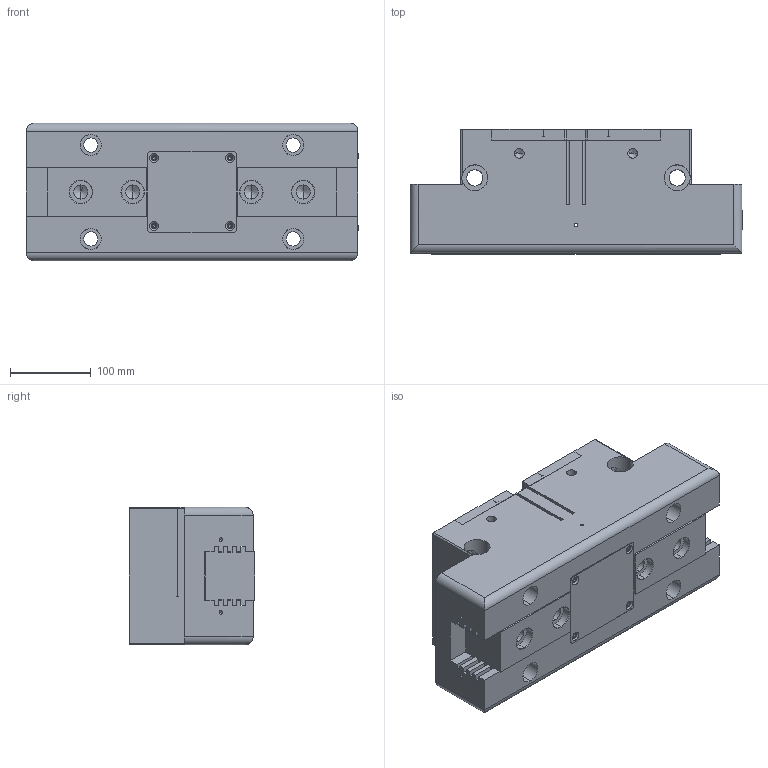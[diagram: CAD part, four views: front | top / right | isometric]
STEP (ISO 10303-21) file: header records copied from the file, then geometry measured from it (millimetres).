
FILE_DESCRIPTION (( 'STEP AP214' ), '1' );
FILE_NAME ('TWN-380A-2.STEP', '2019-12-10T08:37:22', ( '' ), ( '' ), 'SwSTEP 2.0', 'SolidWorks 2016', '' );
FILE_SCHEMA (( 'AUTOMOTIVE_DESIGN' ));
Length unit declared in the file: millimetre
Products named in the file (5): TWN-380A-2-03; TWN-380A-2; TWN-380A-2-01; TWN-380A-2-02; TWN-380A-2-04
Assembly tree (5 placements, depth 2):
  TWN-380A-2
    TWN-380A-2-01
    TWN-380A-2-03
    TWN-380A-2-02  x2
    TWN-380A-2-04
Bounding box: 410 x 155 x 170 mm (x, y, z)
Volume: 8398727 mm3; surface area: 716910.3 mm2
Topology: 5 solids, 8 shells, 482 faces, 1284 edges, 808 vertices
Faces by surface type: cylinder 206, plane 200, cone 76
Entity records: 14774 total; most frequent: CARTESIAN_POINT 3092, DIRECTION 2306, ORIENTED_EDGE 2136, EDGE_CURVE 1068, AXIS2_PLACEMENT_3D 840, VERTEX_POINT 706, VECTOR 626, LINE 626
